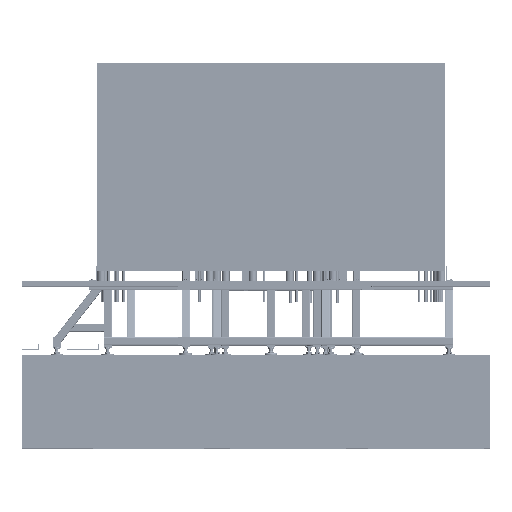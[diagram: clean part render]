
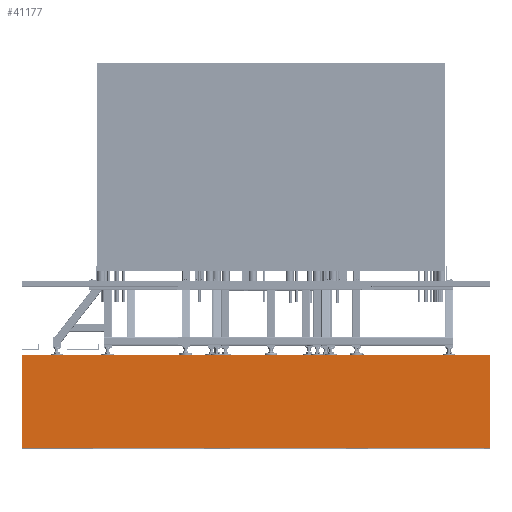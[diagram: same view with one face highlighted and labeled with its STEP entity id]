
A CAD part, top view. The second image highlights one B-rep face of the part: STEP entity #41177.
In plain terms, the highlighted planar face has unit normal (0, 0, 1).
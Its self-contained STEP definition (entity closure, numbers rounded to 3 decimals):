
#20587 = LINE ( 'NONE', #129210, #201117 ) ;
#22333 = CARTESIAN_POINT ( 'NONE',  ( 21513.5, -1610., -19660.99 ) ) ;
#22622 = ORIENTED_EDGE ( 'NONE', *, *, #161544, .F. ) ;
#34517 = LINE ( 'NONE', #35562, #154971 ) ;
#35562 = CARTESIAN_POINT ( 'NONE',  ( 26013.5, -1610., -19660.99 ) ) ;
#36816 = LINE ( 'NONE', #119307, #77756 ) ;
#41177 = ADVANCED_FACE ( 'NONE', ( #86086 ), #158813, .T. ) ;
#50925 = EDGE_CURVE ( 'NONE', #124867, #54626, #36816, .T. ) ;
#54626 = VERTEX_POINT ( 'NONE', #55984 ) ;
#55984 = CARTESIAN_POINT ( 'NONE',  ( 26013.5, -710., -19660.99 ) ) ;
#58318 = DIRECTION ( 'NONE',  ( 1., 0., 0. ) ) ;
#60693 = CARTESIAN_POINT ( 'NONE',  ( 26013.5, -1610., -19660.99 ) ) ;
#62083 = LINE ( 'NONE', #89634, #67629 ) ;
#67629 = VECTOR ( 'NONE', #213493, 1000. ) ;
#69580 = DIRECTION ( 'NONE',  ( 0., 1., 0. ) ) ;
#77756 = VECTOR ( 'NONE', #69580, 1000. ) ;
#86086 = FACE_OUTER_BOUND ( 'NONE', #171285, .T. ) ;
#89634 = CARTESIAN_POINT ( 'NONE',  ( 21513.5, -1610., -19660.99 ) ) ;
#101521 = AXIS2_PLACEMENT_3D ( 'NONE', #123545, #211592, #106863 ) ;
#106863 = DIRECTION ( 'NONE',  ( 1., 0., 0. ) ) ;
#119307 = CARTESIAN_POINT ( 'NONE',  ( 26013.5, -1610., -19660.99 ) ) ;
#123545 = CARTESIAN_POINT ( 'NONE',  ( 26013.5, -1610., -19660.99 ) ) ;
#124867 = VERTEX_POINT ( 'NONE', #60693 ) ;
#127439 = CARTESIAN_POINT ( 'NONE',  ( 21513.5, -710., -19660.99 ) ) ;
#129210 = CARTESIAN_POINT ( 'NONE',  ( 0., -710., -19660.99 ) ) ;
#138309 = VERTEX_POINT ( 'NONE', #22333 ) ;
#154971 = VECTOR ( 'NONE', #58318, 1000. ) ;
#158813 = PLANE ( 'NONE',  #101521 ) ;
#161544 = EDGE_CURVE ( 'NONE', #138309, #223948, #62083, .T. ) ;
#163038 = ORIENTED_EDGE ( 'NONE', *, *, #213694, .F. ) ;
#171285 = EDGE_LOOP ( 'NONE', ( #22622, #211936, #175411, #163038 ) ) ;
#175411 = ORIENTED_EDGE ( 'NONE', *, *, #50925, .T. ) ;
#201117 = VECTOR ( 'NONE', #217272, 1000. ) ;
#211592 = DIRECTION ( 'NONE',  ( 0., 0., 1. ) ) ;
#211936 = ORIENTED_EDGE ( 'NONE', *, *, #220442, .T. ) ;
#213493 = DIRECTION ( 'NONE',  ( 0., 1., 0. ) ) ;
#213694 = EDGE_CURVE ( 'NONE', #223948, #54626, #20587, .T. ) ;
#217272 = DIRECTION ( 'NONE',  ( 1., 0., 0. ) ) ;
#220442 = EDGE_CURVE ( 'NONE', #138309, #124867, #34517, .T. ) ;
#223948 = VERTEX_POINT ( 'NONE', #127439 ) ;
